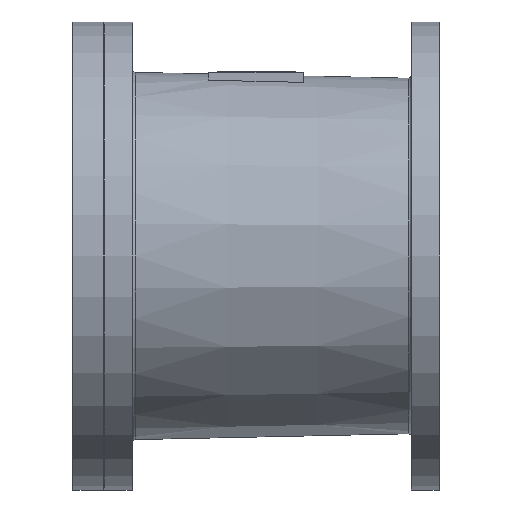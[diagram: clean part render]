
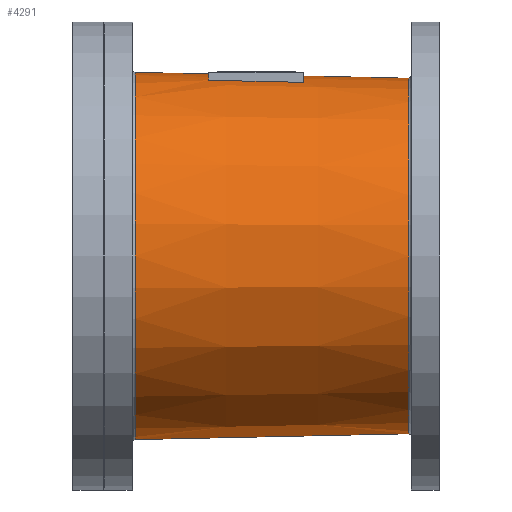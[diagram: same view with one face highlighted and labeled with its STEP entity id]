
A CAD part, front view. The second image highlights one B-rep face of the part: STEP entity #4291.
In plain terms, the highlighted conical face has half-angle 1.219 degrees and reference radius 152.5 mm.
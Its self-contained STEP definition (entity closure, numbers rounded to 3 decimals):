
#14=CONICAL_SURFACE('',#4528,152.5,0.021);
#23=(
BOUNDED_CURVE()
B_SPLINE_CURVE(2,(#7466,#7467,#7468),.UNSPECIFIED.,.F.,.F.)
B_SPLINE_CURVE_WITH_KNOTS((3,3),(0.,8.002),.UNSPECIFIED.)
CURVE()
GEOMETRIC_REPRESENTATION_ITEM()
RATIONAL_B_SPLINE_CURVE((1.,1.,1.))
REPRESENTATION_ITEM('')
);
#61=CIRCLE('',#4501,153.638);
#62=CIRCLE('',#4507,151.936);
#68=CIRCLE('',#4522,154.958);
#71=CIRCLE('',#4529,150.043);
#531=LINE('',#7493,#903);
#539=LINE('',#7627,#911);
#540=LINE('',#7629,#912);
#903=VECTOR('',#5293,10.);
#911=VECTOR('',#5333,10.);
#912=VECTOR('',#5334,10.);
#1259=FACE_OUTER_BOUND('',#1505,.T.);
#1505=EDGE_LOOP('',(#3689,#3690,#3691,#3692,#3693,#3694,#3695,#3696));
#2017=VERTEX_POINT('',#7458);
#2018=VERTEX_POINT('',#7460);
#2019=VERTEX_POINT('',#7465);
#2022=VERTEX_POINT('',#7477);
#2027=VERTEX_POINT('',#7492);
#2032=VERTEX_POINT('',#7554);
#2034=VERTEX_POINT('',#7560);
#2038=VERTEX_POINT('',#7628);
#2576=EDGE_CURVE('',#2018,#2017,#61,.T.);
#2579=EDGE_CURVE('',#2019,#2018,#23,.T.);
#2584=EDGE_CURVE('',#2022,#2019,#62,.T.);
#2591=EDGE_CURVE('',#2022,#2027,#531,.T.);
#2602=EDGE_CURVE('',#2032,#2034,#68,.T.);
#2610=EDGE_CURVE('',#2034,#2017,#539,.T.);
#2611=EDGE_CURVE('',#2032,#2038,#540,.T.);
#2612=EDGE_CURVE('',#2027,#2038,#71,.T.);
#3689=ORIENTED_EDGE('',*,*,#2576,.T.);
#3690=ORIENTED_EDGE('',*,*,#2610,.F.);
#3691=ORIENTED_EDGE('',*,*,#2602,.F.);
#3692=ORIENTED_EDGE('',*,*,#2611,.T.);
#3693=ORIENTED_EDGE('',*,*,#2612,.F.);
#3694=ORIENTED_EDGE('',*,*,#2591,.F.);
#3695=ORIENTED_EDGE('',*,*,#2584,.T.);
#3696=ORIENTED_EDGE('',*,*,#2579,.T.);
#4291=ADVANCED_FACE('',(#1259),#14,.T.);
#4501=AXIS2_PLACEMENT_3D('',#7461,#5261,#5262);
#4507=AXIS2_PLACEMENT_3D('',#7478,#5277,#5278);
#4522=AXIS2_PLACEMENT_3D('',#7564,#5315,#5316);
#4528=AXIS2_PLACEMENT_3D('',#7626,#5331,#5332);
#4529=AXIS2_PLACEMENT_3D('',#7630,#5335,#5336);
#5261=DIRECTION('center_axis',(-1.,0.,0.));
#5262=DIRECTION('ref_axis',(0.,1.,0.));
#5277=DIRECTION('center_axis',(1.,0.,0.));
#5278=DIRECTION('ref_axis',(0.,1.,0.));
#5293=DIRECTION('',(1.,0.,-0.021));
#5315=DIRECTION('center_axis',(-1.,0.,0.));
#5316=DIRECTION('ref_axis',(0.,-1.,0.));
#5331=DIRECTION('center_axis',(-1.,0.,0.));
#5332=DIRECTION('ref_axis',(0.,-1.,0.));
#5333=DIRECTION('',(1.,0.,-0.021));
#5334=DIRECTION('',(1.,0.,0.021));
#5335=DIRECTION('center_axis',(1.,0.,0.));
#5336=DIRECTION('ref_axis',(0.,-1.,0.));
#7458=CARTESIAN_POINT('',(-40.,0.,153.638));
#7460=CARTESIAN_POINT('',(-40.,-40.,148.34));
#7461=CARTESIAN_POINT('Origin',(-40.,0.,0.));
#7465=CARTESIAN_POINT('',(40.,-40.,146.576));
#7466=CARTESIAN_POINT('Ctrl Pts',(40.,-40.,146.576));
#7467=CARTESIAN_POINT('Ctrl Pts',(0.239,-40.,147.453));
#7468=CARTESIAN_POINT('Ctrl Pts',(-40.,-40.,148.34));
#7477=CARTESIAN_POINT('',(40.,0.,151.936));
#7478=CARTESIAN_POINT('Origin',(40.,0.,0.));
#7492=CARTESIAN_POINT('',(128.957,0.,150.043));
#7493=CARTESIAN_POINT('',(13.5,0.,152.5));
#7554=CARTESIAN_POINT('',(-102.043,0.,-154.958));
#7560=CARTESIAN_POINT('',(-102.043,0.,154.958));
#7564=CARTESIAN_POINT('Origin',(-102.043,0.,
0.));
#7626=CARTESIAN_POINT('Origin',(13.5,0.,0.));
#7627=CARTESIAN_POINT('',(13.5,0.,152.5));
#7628=CARTESIAN_POINT('',(128.957,0.,-150.043));
#7629=CARTESIAN_POINT('',(13.5,0.,-152.5));
#7630=CARTESIAN_POINT('Origin',(128.957,0.,0.));
